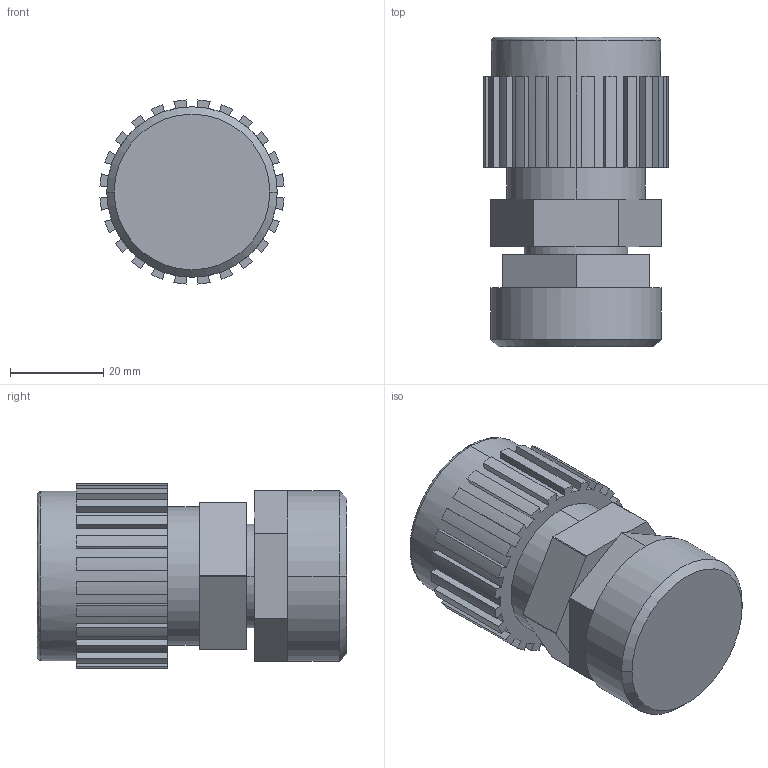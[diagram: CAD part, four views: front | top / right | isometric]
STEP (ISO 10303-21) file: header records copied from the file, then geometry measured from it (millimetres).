
FILE_DESCRIPTION (( 'STEP AP214' ), '1' );
FILE_NAME ('12-pillar-s-300-with-top-mount-adapter.STEP', '2012-11-27T23:10:12', ( '' ), ( '' ), 'SwSTEP 2.0', 'SolidWorks 2012', '' );
FILE_SCHEMA (( 'AUTOMOTIVE_DESIGN' ));
Length unit declared in the file: inch
Products named in the file (1): 12-pillar-s-300-with-top-mount-adapter
Bounding box: 39.54 x 66.42 x 39.54 mm (x, y, z)
Volume: 62196.9 mm3; surface area: 13326.9 mm2
Topology: 1 solids, 1 shells, 149 faces, 408 edges, 266 vertices
Faces by surface type: plane 103, cylinder 40, bspline 4, cone 2
Entity records: 5649 total; most frequent: CARTESIAN_POINT 1211, DIRECTION 834, ORIENTED_EDGE 816, EDGE_CURVE 408, AXIS2_PLACEMENT_3D 288, VERTEX_POINT 266, VECTOR 258, LINE 258
